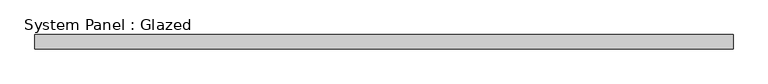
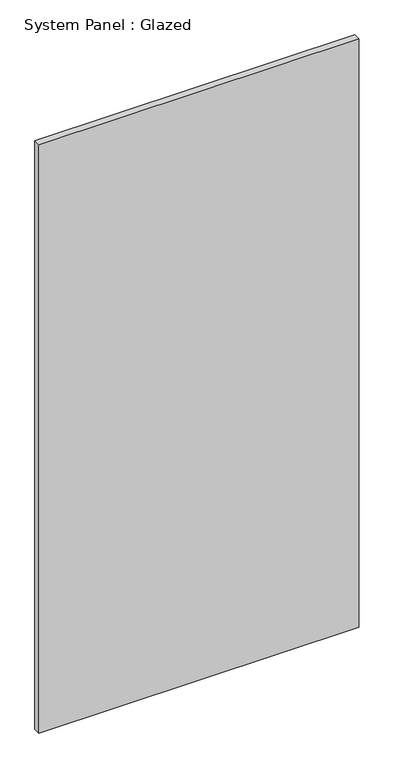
"""IFC4 building model written with IfcOpenShell, lengths in millimetres: plate geometry, System Panel : Glazed."""

from ifc_helpers import new_model, si_unit, origin, origin_with_axes, place, context, project, spatial, polyline, outline, extrude, source, transform, mapped, element, save


def system_panel_glazed_c9174913(model_context):
    return source(origin(), model_context, "Body", "SweptSolid", [
        extrude(outline(polyline([(607.7777778, -49.5), (-607.7777778, -49.5), (-607.7777778, -24.5), (607.7777778, -24.5), (607.7777778, -49.5)])), origin_with_axes(), (0.0, 0.0, 1.0), 2363.4),
    ])


if __name__ == "__main__":
    model = new_model("IFC4")
    model_context = context("Model", 3, world=origin())
    ifc_project = project(units=[si_unit("LENGTHUNIT", "METRE", prefix="MILLI")], contexts=[model_context])
    site = spatial("IfcSite", under=ifc_project)
    building = spatial("IfcBuilding", under=site)
    placement = place(None, origin())
    system_panel_glazed_shape = system_panel_glazed_c9174913(model_context)
    element("IfcPlate", 1, ObjectType="System Panel : Glazed", at=placement, inside=building, context=model_context, shape_type="MappedRepresentation", body=[
        mapped(system_panel_glazed_shape, transform((0.0, 0.0, 0.0), x_axis=(1.0, 0.0, 0.0), y_axis=(0.0, 1.0, 0.0), z_axis=(0.0, 0.0, 1.0))),
    ])
    save(model, "model.ifc")
